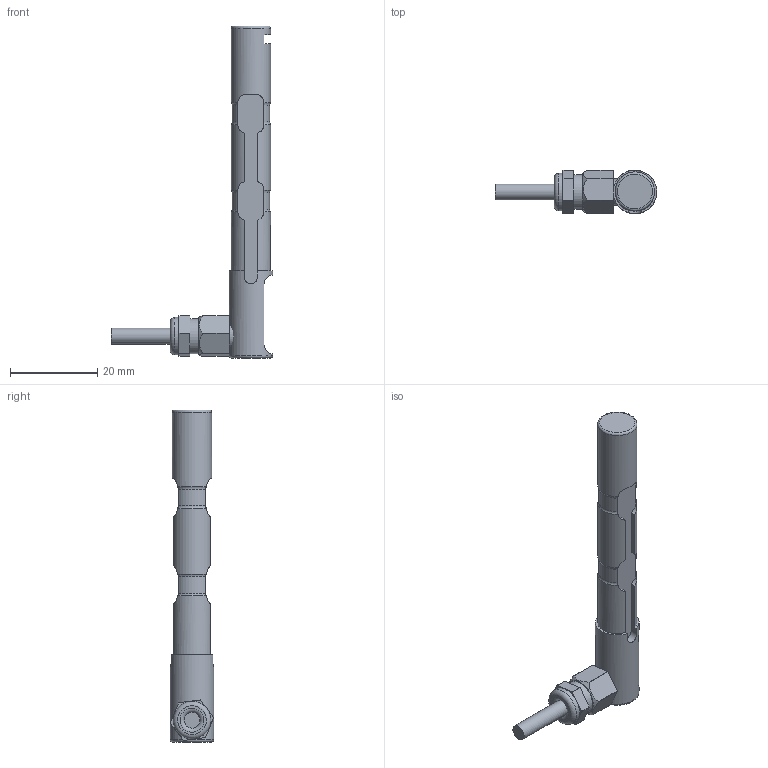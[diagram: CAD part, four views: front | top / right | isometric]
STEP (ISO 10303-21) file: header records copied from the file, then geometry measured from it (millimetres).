
FILE_DESCRIPTION(/* description */ ('Alibre Inc.'),/* implementation_level */ '2;1');
FILE_NAME(/* name */ 'export0',/* time_stamp */ '2012-03-02T11:31:41+01:00',/* author */ (''),/* organization */ (''),/* preprocessor_version */ 'ST-DEVELOPER v10',/* originating_system */ 'Alibre',/* authorisation */ '');
FILE_SCHEMA (('CONFIG_CONTROL_DESIGN'));
Length unit declared in the file: centimetre
Products named in the file (3): ID_1; ID_2
Bounding box: 37 x 10 x 76.1 mm (x, y, z)
Volume: 5308.3 mm3; surface area: 3521.7 mm2
Topology: 2 solids, 2 shells, 118 faces, 303 edges, 196 vertices
Faces by surface type: plane 53, cylinder 50, torus 12, cone 3
Full cylindrical faces by diameter (mm): 3.5 x1, 3.617 x1, 4.917 x1, 6 x1, 8 x1, 8.6 x1, 9 x1, 10 x1
Entity records: 4371 total; most frequent: CARTESIAN_POINT 1584, ORIENTED_EDGE 554, DIRECTION 420, EDGE_CURVE 277, VERTEX_POINT 187, AXIS2_PLACEMENT_3D 170, EDGE_LOOP 142, FACE_BOUND 142
